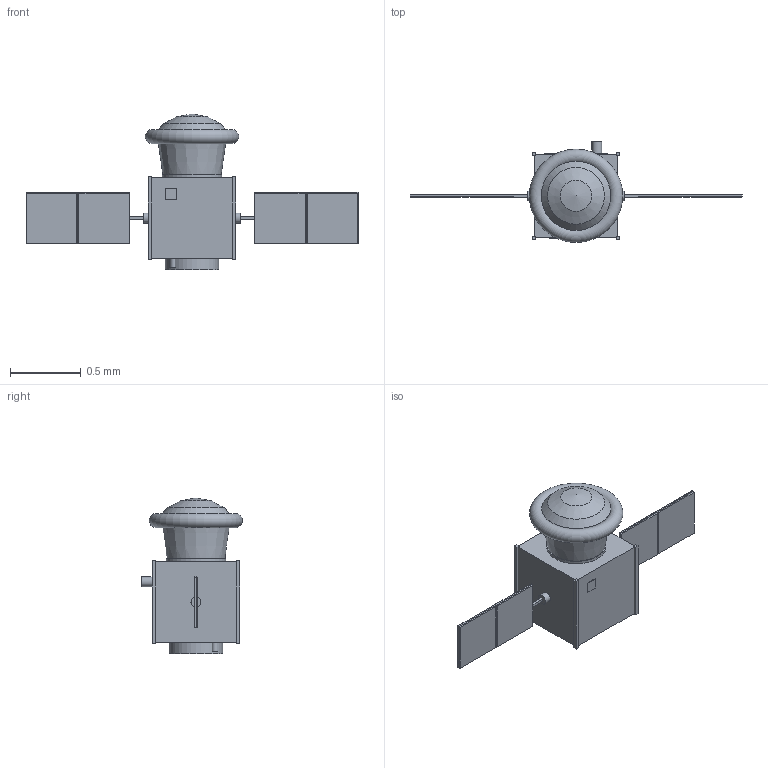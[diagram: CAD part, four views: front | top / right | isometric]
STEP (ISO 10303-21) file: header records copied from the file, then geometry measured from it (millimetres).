
FILE_DESCRIPTION(('Open CASCADE Model'),'2;1');
FILE_NAME('Open CASCADE Shape Model','2026-10-04T09:01:26',('Author'),( 'Open CASCADE'),'Open CASCADE STEP processor 7.9','Open CASCADE 7.9' ,'Unknown');
FILE_SCHEMA(('AUTOMOTIVE_DESIGN { 1 0 10303 214 1 1 1 1 }'));
Length unit declared in the file: millimetre
Products named in the file (46): SP-ALG; capsule_backshell; nose; heat_shield_packed; sample_drawer; sample_cassette_1; sample_cassette_2; sample_cassette_3; sample_cassette_4; optical_window; capsule_avionics_and_hold_battery; parachute_canister; recovery_beacon; separation_interface; service_module_structure; corner_rail_-X-Y; corner_rail_-X+Y; corner_rail_+X-Y; corner_rail_+X+Y; radiator_+Y_face; experiment_instruments_microscope_pumps_reservoirs; propellant_tank_LMP-103S; battery; on-board_computer_and_radios; reaction_wheel_1; reaction_wheel_2; reaction_wheel_3; magnetorquer_1; magnetorquer_2; star_tracker; S-band_antenna; 22_N_thruster_1; 22_N_thruster_2; launch_separation_ring; array_drive_-X; yoke_-X; solar_panel_-X1; panel_frame_-X1; solar_panel_-X2; panel_frame_-X2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
Assembly tree (45 placements, depth 2):
  SP-ALG
    capsule_backshell
    nose
    heat_shield_packed
    sample_drawer
    sample_cassette_1
    sample_cassette_2
    sample_cassette_3
    sample_cassette_4
    optical_window
    capsule_avionics_and_hold_battery
    parachute_canister
    recovery_beacon
    separation_interface
    service_module_structure
    corner_rail_-X-Y
    corner_rail_-X+Y
    corner_rail_+X-Y
    corner_rail_+X+Y
    radiator_+Y_face
    experiment_instruments_microscope_pumps_reservoirs
    propellant_tank_LMP-103S
    battery
    on-board_computer_and_radios
    reaction_wheel_1
    reaction_wheel_2
    reaction_wheel_3
    magnetorquer_1
    magnetorquer_2
    star_tracker
    S-band_antenna
    22_N_thruster_1
    22_N_thruster_2
    launch_separation_ring
    array_drive_-X
    yoke_-X
    solar_panel_-X1
    panel_frame_-X1
    solar_panel_-X2
    panel_frame_-X2
    array_drive_+X
    yoke_+X
    solar_panel_+X1
    panel_frame_+X1
    solar_panel_+X2
    panel_frame_+X2
Bounding box: 2.35 x 0.72 x 1.11 mm (x, y, z)
Volume: 0.3 mm3; surface area: 8.6 mm2
Topology: 45 solids, 45 shells, 215 faces, 386 edges, 256 vertices
Faces by surface type: plane 193, cylinder 16, cone 4, torus 1, sphere 1
Full cylindrical faces by diameter (mm): 0.024 x2, 0.04 x1, 0.045 x2, 0.07 x3, 0.09 x3, 0.14 x1, 0.341 x1, 0.381 x1, 0.423 x1, 0.491 x1
Entity records: 11207 total; most frequent: DIRECTION 1706, CARTESIAN_POINT 1662, LINE 1075, VECTOR 1075, ORIENTED_EDGE 764, PCURVE 764, DEFINITIONAL_REPRESENTATION 764, EDGE_CURVE 382
